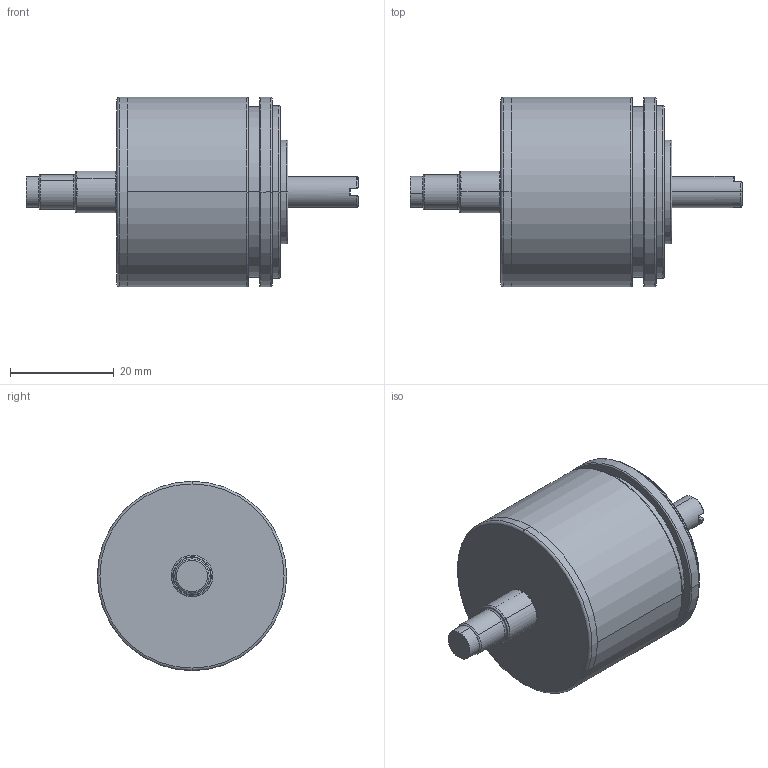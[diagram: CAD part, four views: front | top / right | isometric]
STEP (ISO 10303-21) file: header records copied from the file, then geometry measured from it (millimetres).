
FILE_DESCRIPTION (( 'STEP AP214' ), '1' );
FILE_NAME ('MAB36_axial.STEP', '2011-09-26T08:10:43', ( 'Mega' ), ( '' ), 'SwSTEP 2.0', 'SolidWorks 2007', '' );
FILE_SCHEMA (( 'AUTOMOTIVE_DESIGN' ));
Length unit declared in the file: millimetre
Products named in the file (1): MAB36_axial
Bounding box: 64 x 36.5 x 36.5 mm (x, y, z)
Surface area: 7904.1 mm2 (no closed solid volume)
Topology: 0 solids, 6 shells, 118 faces, 266 edges, 157 vertices
Faces by surface type: cylinder 46, torus 37, plane 21, cone 8, sphere 4, bspline 2
Entity records: 4675 total; most frequent: DIRECTION 666, CARTESIAN_POINT 650, ORIENTED_EDGE 492, AXIS2_PLACEMENT_3D 299, EDGE_CURVE 260, CIRCLE 182, VERTEX_POINT 157, EDGE_LOOP 135
